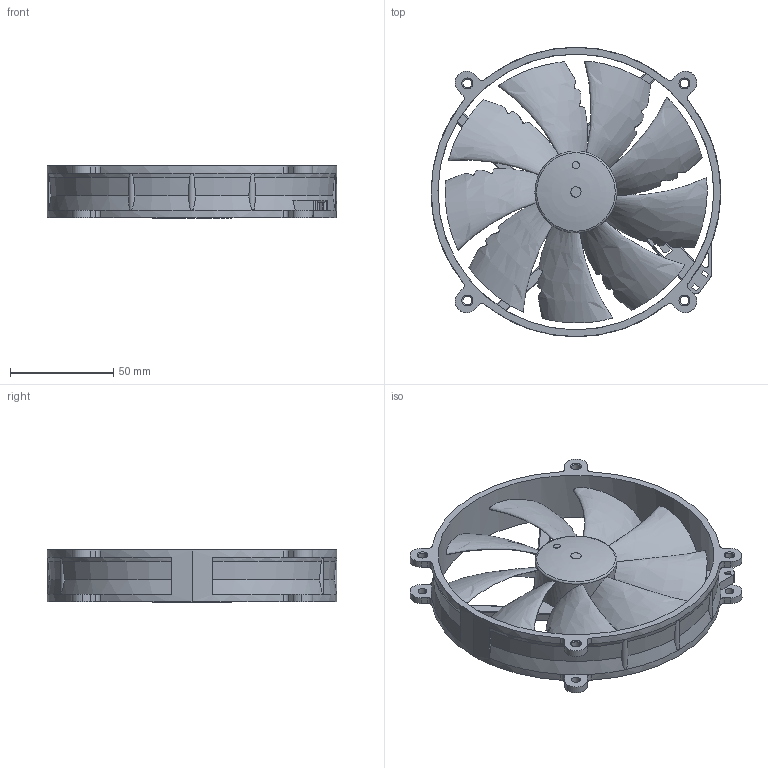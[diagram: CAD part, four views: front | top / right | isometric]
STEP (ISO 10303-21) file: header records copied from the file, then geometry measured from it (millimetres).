
FILE_DESCRIPTION(/* description */ ('140mm Desk Fan'),/* implementation_level */ '2;1');
FILE_NAME(/* name */ 'NF-P14r_redux_Public-CAD',/* time_stamp */ '2026-04-10T09:12:27+02:00',/* author */ ('Andreas'),/* organization */ ('Rascom'),/* preprocessor_version */ 'ST-DEVELOPER v18.102',/* originating_system */ 'Solid Edge',/* authorisation */ 'Unknown');
FILE_SCHEMA (('AP242_MANAGED_MODEL_BASED_3D_ENGINEERING_MIM_LF { 1 0 10303 442 1 1 4 }','AUTOMOTIVE_DESIGN {1 0 10303 214 3 1 1}'));
Length unit declared in the file: millimetre
Products named in the file (4): NF-P14r_redux_Public-CAD; NF-P14r_redux_frame-public; NF-P14_redux_impeller-public; Fan-Label-D38mm-Redux
Assembly tree (3 placements, depth 2):
  NF-P14r_redux_Public-CAD
    NF-P14r_redux_frame-public
    NF-P14_redux_impeller-public
    Fan-Label-D38mm-Redux
Bounding box: 140.1 x 140 x 25.15 mm (x, y, z)
Volume: 92240.3 mm3; surface area: 65513 mm2
Topology: 3 solids, 3 shells, 472 faces, 1320 edges, 860 vertices
Faces by surface type: plane 187, cylinder 186, cone 40, torus 31, bspline 28
Full cylindrical faces by diameter (mm): 3.5 x1, 38 x1, 39.6 x1, 133.428 x1
Entity records: 27300 total; most frequent: CARTESIAN_POINT 15229, ORIENTED_EDGE 2616, DIRECTION 2167, EDGE_CURVE 1308, VERTEX_POINT 855, AXIS2_PLACEMENT_3D 833, EDGE_LOOP 517, FACE_BOUND 517
